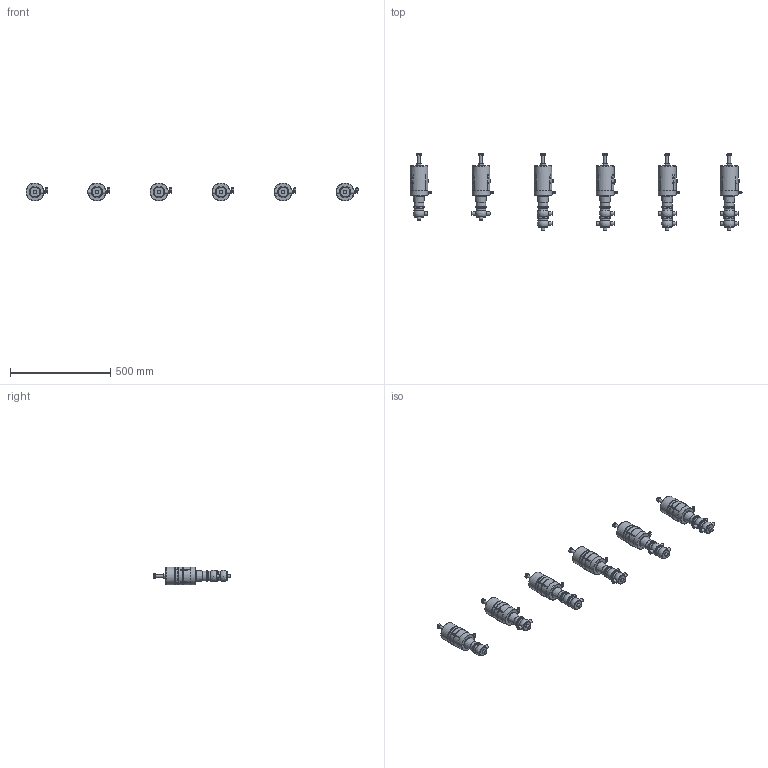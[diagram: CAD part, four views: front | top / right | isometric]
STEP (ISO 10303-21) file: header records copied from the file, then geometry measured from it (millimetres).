
FILE_DESCRIPTION((''),'2;1');
FILE_NAME('\\BV-SRV1\Ufficio tecnico\cad3d\PNEUMATICA\Ing1-1\pne bbzp e derivate\BBZS5\BBZS5-DN015-CIL83-SAL.iam.step','2009-10-19T10:17:37',(''),(''),'Autodesk Inventor 2010','Autodesk Inventor 2010','');
FILE_SCHEMA(('AUTOMOTIVE_DESIGN { 1 0 10303 214 1 1 1 1 }'));
Length unit declared in the file: millimetre
Products named in the file (7): BBZS5-DN015-CIL83-SAL; Assemblaggio-DN025; COR-INF-L-SAL-DN15; COR-INF-T-SAL-DN15; COR-SUP-L-SAL-DN15; COR-SUP-T-SAL-DN15; cil 83  tarabile
Assembly tree (22 placements, depth 2):
  BBZS5-DN015-CIL83-SAL
    Assemblaggio-DN025  x6
    COR-INF-L-SAL-DN15  x3
    COR-INF-T-SAL-DN15  x3
    COR-SUP-L-SAL-DN15  x2
    COR-SUP-T-SAL-DN15  x2
    cil 83  tarabile  x6
Bounding box: 1658.86 x 379.8 x 89.38 mm (x, y, z)
Volume: 7555794.1 mm3; surface area: 654995.7 mm2
Topology: 22 solids, 52 shells, 1308 faces, 3058 edges, 1845 vertices
Faces by surface type: plane 491, cylinder 343, cone 260, bspline 90, sphere 82, torus 42
Full cylindrical faces by diameter (mm): 4.9 x6, 6 x12, 7 x6, 8.3 x6, 10 x6, 11 x6, 11.5 x6, 14 x18, 18 x21, 19.37 x6, 49 x26, 57 x26, 84.813 x18, 86 x12, 86.1 x6, 88.5 x6, 89.5 x6
Entity records: 7432 total; most frequent: CARTESIAN_POINT 2035, DIRECTION 1064, ORIENTED_EDGE 900, AXIS2_PLACEMENT_3D 454, EDGE_CURVE 450, EDGE_LOOP 351, VERTEX_POINT 313, FACE_OUTER_BOUND 247
